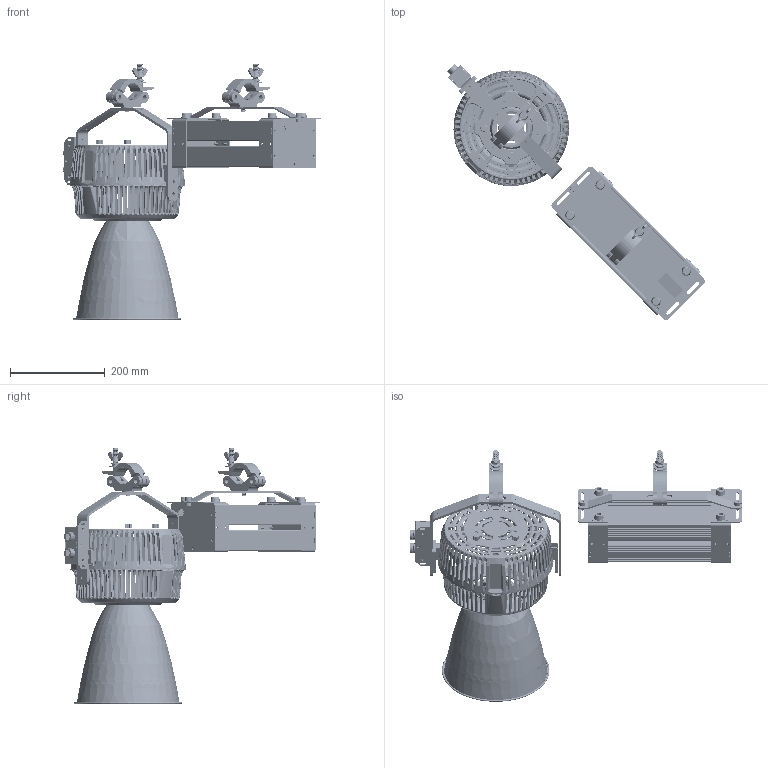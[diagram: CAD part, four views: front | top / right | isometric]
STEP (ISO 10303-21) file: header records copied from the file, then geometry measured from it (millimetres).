
FILE_DESCRIPTION (( 'STEP AP214' ), '1' );
FILE_NAME ('W2KN-CLP.STEP', '2024-01-31T02:04:11', ( '' ), ( '' ), 'SwSTEP 2.0', 'SolidWorks 2022', '' );
FILE_SCHEMA (( 'AUTOMOTIVE_DESIGN' ));
Length unit declared in the file: millimetre
Products named in the file (30): REFLECTOR-30___; RJ45_WaterProof_3352I02029___; 5022653-XXX_A1_Sheet Metal Part-B, 130x40x103.4mm___; 5021926_A1_KNOB, 18T, OD=14.9, ID=6, L=10MM___; WASHER ID4.2,OD10,T=1___; 5022499_X2_Single Arm Pivot Base___; 62280-3364010 SCREW, M4 L10 PAN HEAD, HEX SOCKET, Threadlocking, SUS, BLACK___; 5022495-XXX_A3_Yoke, 275x30x195mm___; DMX Signal Cable_X2___; 62280-2163008 SCREW, M3 L8 FLAT HEAD, TORX, SUS, BLACK___; HLG-480H_Power Supply___; BOTTOM COVER_X2___; TOP COVER_X2___; 5022530-2022-01-10___; 5022650-XXX_A2_HandBar for 277V, 346.7x25x23mm___; RJ45_WaterProof_3352I02029-PCB Housing___; SCREW, M8 L8 CAP HEAD, HEX SOCKET, SUS, BLACK___; W2K 277V Power Supply_TYPE-B; 5022652-XXX_A1_Sheet Metal Part-A, 120x2x65mm___; 5022496_X2_Yoke Adapter___; W2KN-CLP; Top Assembly W2K_20220609_15; 5022654-XXX_A1_Sheet Metal Part-C, 130x2x103.4mm_AC; 5022645-XXX_A1_REFLECTOR-30 FOR W2K___; CLP+TOKE___; 5021745-200429010465_Plastic Foot, GL-4A, OD20 ID4.2 H10.4, Black___; 5021736-006_A2_Aluminum Hook, M12_Original; SCREW, PAN HEAD SUS-304, M4.0 x L5mm___; 5022531_X1_BOTTOM HOUSING FOR W2K&A2K; 5022654-XXX_A1_Sheet Metal Part-C, 130x2x103.4mm___
Assembly tree (55 placements, depth 5):
  W2KN-CLP
    Top Assembly W2K_20220609_15
      DMX Signal Cable_X2___
        BOTTOM COVER_X2___
        TOP COVER_X2___
        RJ45_WaterProof_3352I02029___  x2
          RJ45_WaterProof_3352I02029-PCB Housing___
      CLP+TOKE___
        5021736-006_A2_Aluminum Hook, M12_Original
        5022495-XXX_A3_Yoke, 275x30x195mm___
      5022531_X1_BOTTOM HOUSING FOR W2K&A2K
      5022496_X2_Yoke Adapter___  x2
      5022530-2022-01-10___
      5021926_A1_KNOB, 18T, OD=14.9, ID=6, L=10MM___  x2
      SCREW, M8 L8 CAP HEAD, HEX SOCKET, SUS, BLACK___
      5022499_X2_Single Arm Pivot Base___
      REFLECTOR-30___
        5022645-XXX_A1_REFLECTOR-30 FOR W2K___
        SCREW, PAN HEAD SUS-304, M4.0 x L5mm___  x4
        WASHER ID4.2,OD10,T=1___  x4
    W2K 277V Power Supply_TYPE-B
      HLG-480H_Power Supply___  x2
      5022653-XXX_A1_Sheet Metal Part-B, 130x40x103.4mm___  x2
      5022652-XXX_A1_Sheet Metal Part-A, 120x2x65mm___  x2
      5022654-XXX_A1_Sheet Metal Part-C, 130x2x103.4mm___
      62280-3364010 SCREW, M4 L10 PAN HEAD, HEX SOCKET, Threadlocking, SUS, BLACK___  x4
      5022654-XXX_A1_Sheet Metal Part-C, 130x2x103.4mm_AC
      62280-2163008 SCREW, M3 L8 FLAT HEAD, TORX, SUS, BLACK___  x6
      5021745-200429010465_Plastic Foot, GL-4A, OD20 ID4.2 H10.4, Black___  x4
      5022650-XXX_A2_HandBar for 277V, 346.7x25x23mm___
      SCREW, M8 L8 CAP HEAD, HEX SOCKET, SUS, BLACK___  x2
      5021736-006_A2_Aluminum Hook, M12_Original
Bounding box: 543.22 x 539.4 x 539.36 mm (x, y, z)
Volume: 3469923.9 mm3; surface area: 1160319.1 mm2
Topology: 63 solids, 63 shells, 8053 faces, 21470 edges, 13369 vertices
Faces by surface type: bspline 2455, plane 2292, cylinder 2163, torus 577, cone 530, sphere 36
Entity records: 399108 total; most frequent: CARTESIAN_POINT 231822, ORIENTED_EDGE 33112, DIRECTION 22829, EDGE_CURVE 16556, VERTEX_POINT 10165, AXIS2_PLACEMENT_3D 9274, EDGE_LOOP 6631, B_SPLINE_CURVE_WITH_KNOTS 6612
